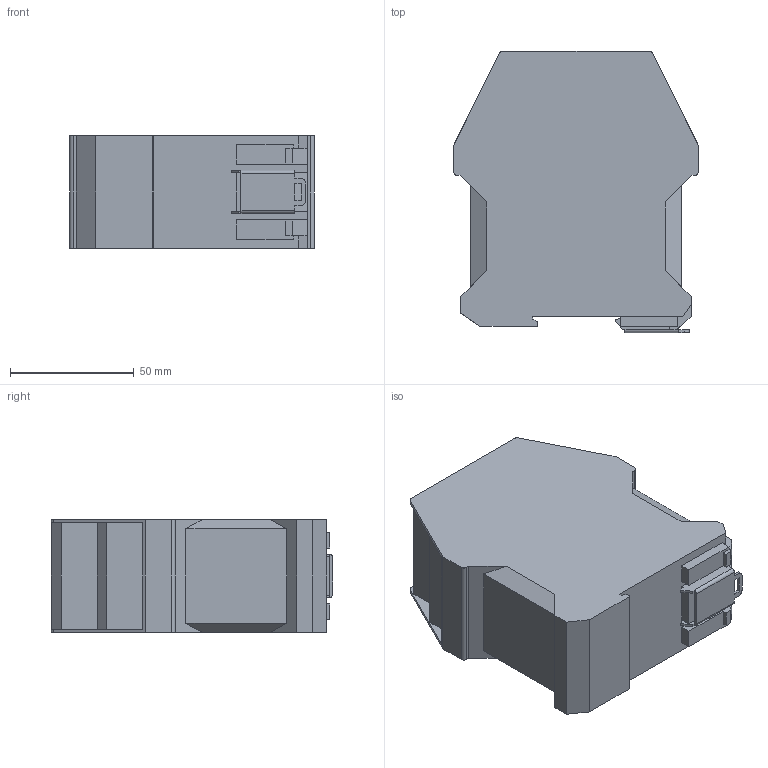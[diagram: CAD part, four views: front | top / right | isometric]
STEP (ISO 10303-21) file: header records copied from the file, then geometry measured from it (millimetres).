
FILE_DESCRIPTION (( 'STEP AP214' ), '1' );
FILE_NAME ('ZF_STEP_CS_fC_mV.step', '2021-02-15T12:59:20', ( '' ), ( '' ), 'SwSTEP 2.0', 'SolidWorks 2014', '' );
FILE_SCHEMA (( 'AUTOMOTIVE_DESIGN' ));
Length unit declared in the file: millimetre
Products named in the file (3): CS_morsetti_V_45; DIN; ZF_STEP_CS_fC_mV
Assembly tree (2 placements, depth 2):
  ZF_STEP_CS_fC_mV
    CS_morsetti_V_45
    DIN
Bounding box: 99 x 113.7 x 45.6 mm (x, y, z)
Volume: 414516.9 mm3; surface area: 39957.3 mm2
Topology: 2 solids, 2 shells, 109 faces, 309 edges, 204 vertices
Faces by surface type: plane 98, cylinder 11
Entity records: 3624 total; most frequent: CARTESIAN_POINT 627, ORIENTED_EDGE 618, DIRECTION 559, EDGE_CURVE 309, VECTOR 287, LINE 287, VERTEX_POINT 204, AXIS2_PLACEMENT_3D 136
